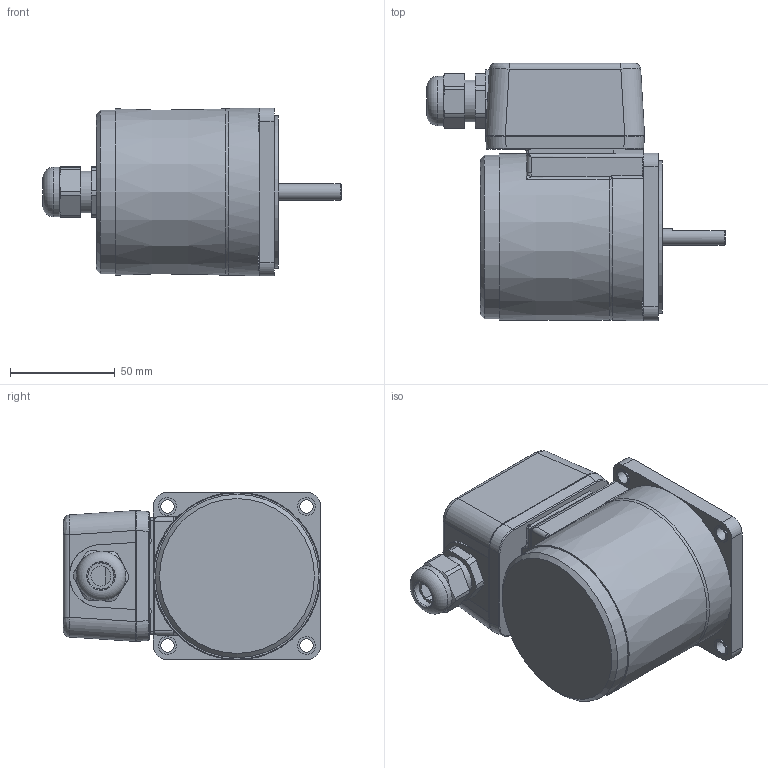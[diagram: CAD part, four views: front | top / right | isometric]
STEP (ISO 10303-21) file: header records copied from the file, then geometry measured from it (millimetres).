
FILE_DESCRIPTION(/* description */ (''),/* implementation_level */ '2;1');
FILE_NAME(/* name */ 'Y:\제품연구개발\3. 도면\3. 고객배포용\3D_홈페이지용\01-1 Standard AC SG Series\04 TERMINAL BOX TYPE MOTORS\INDUCTION TERMINAL BOX\SG8I25_-T_\SG8I25D_-T.stp',/* time_stamp */ '2023-12-06T09:53:33+09:00',/* author */ ('shyi1037'),/* organization */ (''),/* preprocessor_version */ 'ST-DEVELOPER v18.1',/* originating_system */ 'Autodesk Inventor 2022',/* authorisation */ '');
FILE_SCHEMA (('AUTOMOTIVE_DESIGN { 1 0 10303 214 3 1 1 }'));
Length unit declared in the file: millimetre
Products named in the file (1): SG8I25D_-T
Bounding box: 142.5 x 123 x 80 mm (x, y, z)
Volume: 631021.8 mm3; surface area: 59201 mm2
Topology: 1 solids, 9 shells, 368 faces, 915 edges, 584 vertices
Faces by surface type: plane 190, cylinder 108, bspline 47, torus 18, cone 5
Full cylindrical faces by diameter (mm): 2.55 x2, 5.6 x4, 6.3 x4, 6.5 x4, 8 x1, 8.5 x4, 12.5 x1, 15 x1, 20 x2, 21 x1, 23.6 x1, 34 x1, 73 x1, 78 x1
Entity records: 13466 total; most frequent: CARTESIAN_POINT 4547, ORIENTED_EDGE 1820, DIRECTION 1732, EDGE_CURVE 910, AXIS2_PLACEMENT_3D 619, VERTEX_POINT 585, LINE 494, VECTOR 494
